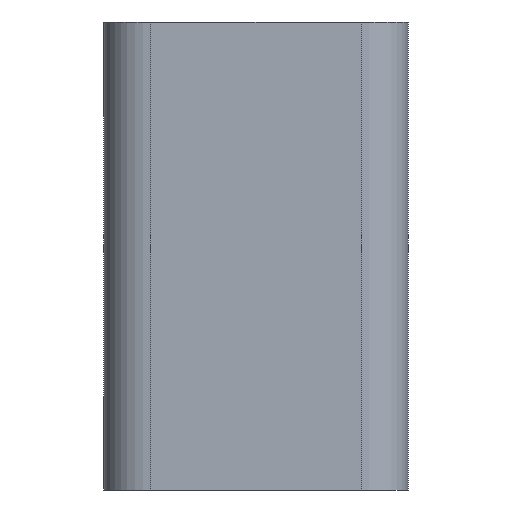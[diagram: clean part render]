
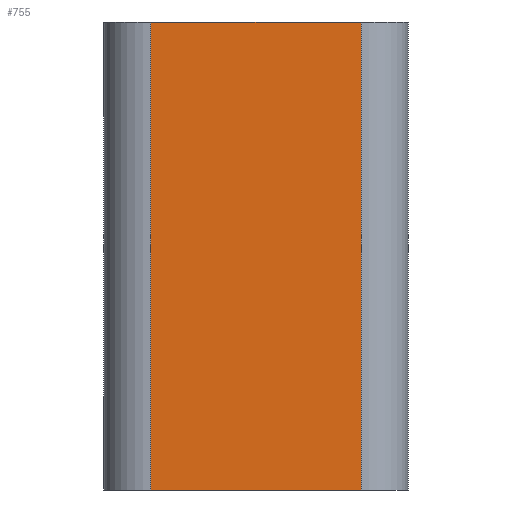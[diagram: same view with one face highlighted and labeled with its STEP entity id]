
A CAD part, left-side view. The second image highlights one B-rep face of the part: STEP entity #755.
In plain terms, the highlighted planar face has unit normal (-1, 0, 0).
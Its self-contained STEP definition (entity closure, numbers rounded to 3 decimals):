
#278=CARTESIAN_POINT('',(-32.5,-2.15,-5.0));
#279=VERTEX_POINT('',#278);
#287=CARTESIAN_POINT('',(-32.5,2.35,-5.0));
#288=VERTEX_POINT('',#287);
#289=CARTESIAN_POINT('',(-32.5,2.35,-5.0));
#290=DIRECTION('',(0.0,-1.0,0.0));
#291=VECTOR('',#290,4.5);
#292=LINE('',#289,#291);
#293=EDGE_CURVE('',#288,#279,#292,.T.);
#712=CARTESIAN_POINT('',(-32.5,-2.15,5.0));
#713=VERTEX_POINT('',#712);
#721=CARTESIAN_POINT('',(-32.5,-2.15,-5.0));
#722=DIRECTION('',(0.0,0.0,1.0));
#723=VECTOR('',#722,10.0);
#724=LINE('',#721,#723);
#725=EDGE_CURVE('',#279,#713,#724,.T.);
#732=CARTESIAN_POINT('',(-32.5,-2.15,-5.0));
#733=DIRECTION('',(-1.0,0.0,0.0));
#734=DIRECTION('',(0.0,0.0,1.0));
#735=AXIS2_PLACEMENT_3D('',#732,#733,#734);
#736=PLANE('',#735);
#737=CARTESIAN_POINT('',(-32.5,2.35,5.0));
#738=VERTEX_POINT('',#737);
#739=CARTESIAN_POINT('',(-32.5,-2.15,5.0));
#740=DIRECTION('',(0.0,1.0,0.0));
#741=VECTOR('',#740,4.5);
#742=LINE('',#739,#741);
#743=EDGE_CURVE('',#713,#738,#742,.T.);
#744=ORIENTED_EDGE('',*,*,#743,.T.);
#745=CARTESIAN_POINT('',(-32.5,2.35,-5.0));
#746=DIRECTION('',(0.0,0.0,1.0));
#747=VECTOR('',#746,10.0);
#748=LINE('',#745,#747);
#749=EDGE_CURVE('',#288,#738,#748,.T.);
#750=ORIENTED_EDGE('',*,*,#749,.F.);
#751=ORIENTED_EDGE('',*,*,#293,.T.);
#752=ORIENTED_EDGE('',*,*,#725,.T.);
#753=EDGE_LOOP('',(#744,#750,#751,#752));
#754=FACE_OUTER_BOUND('',#753,.T.);
#755=ADVANCED_FACE('',(#754),#736,.T.);
